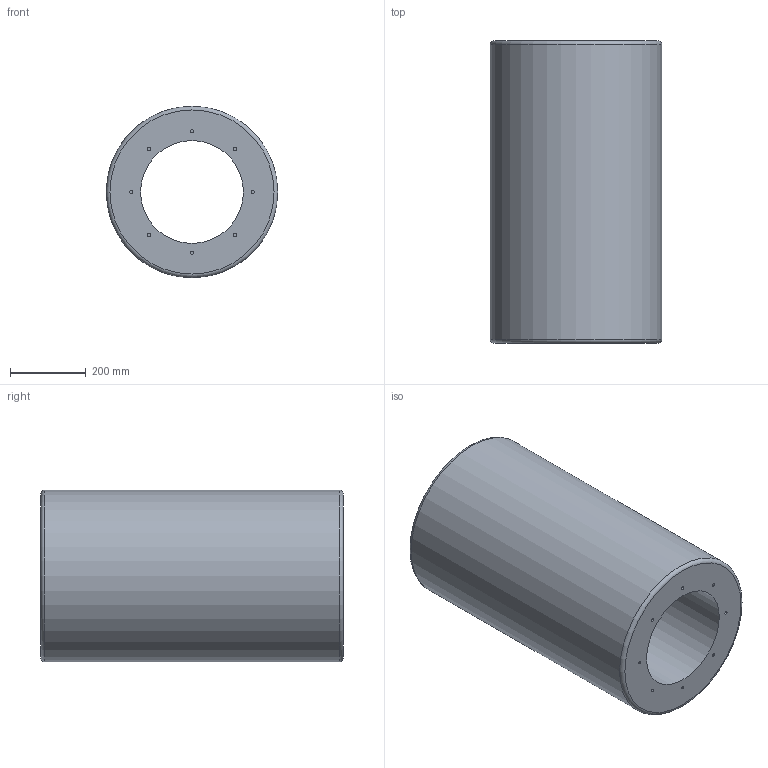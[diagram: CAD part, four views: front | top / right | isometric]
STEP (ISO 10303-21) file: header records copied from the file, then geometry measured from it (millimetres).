
FILE_DESCRIPTION(/* description */ (''),/* implementation_level */ '2;1');
FILE_NAME(/* name */ 'Z:\Output\RSD 280-800-08741-002.stp',/* time_stamp */ '2017-06-15T22:47:49+02:00',/* author */ ('Engineering1'),/* organization */ (''),/* preprocessor_version */ 'ST-DEVELOPER v16.5',/* originating_system */ 'Autodesk Inventor 2017',/* authorisation */ '');
FILE_SCHEMA (('AUTOMOTIVE_DESIGN { 1 0 10303 214 3 1 1 }'));
Length unit declared in the file: millimetre
Products named in the file (1): RSD-1
Bounding box: 454 x 800 x 454 mm (x, y, z)
Volume: 82952327.4 mm3; surface area: 2023878.4 mm2
Topology: 1 solids, 1 shells, 38 faces, 58 edges, 38 vertices
Faces by surface type: cylinder 18, plane 18, torus 2
Full cylindrical faces by diameter (mm): 8 x16, 272 x1, 454 x1
Entity records: 806 total; most frequent: DIRECTION 154, CARTESIAN_POINT 115, AXIS2_PLACEMENT_3D 77, EDGE_LOOP 76, ORIENTED_EDGE 76, FACE_BOUND 38, FACE_OUTER_BOUND 38, CIRCLE 38
